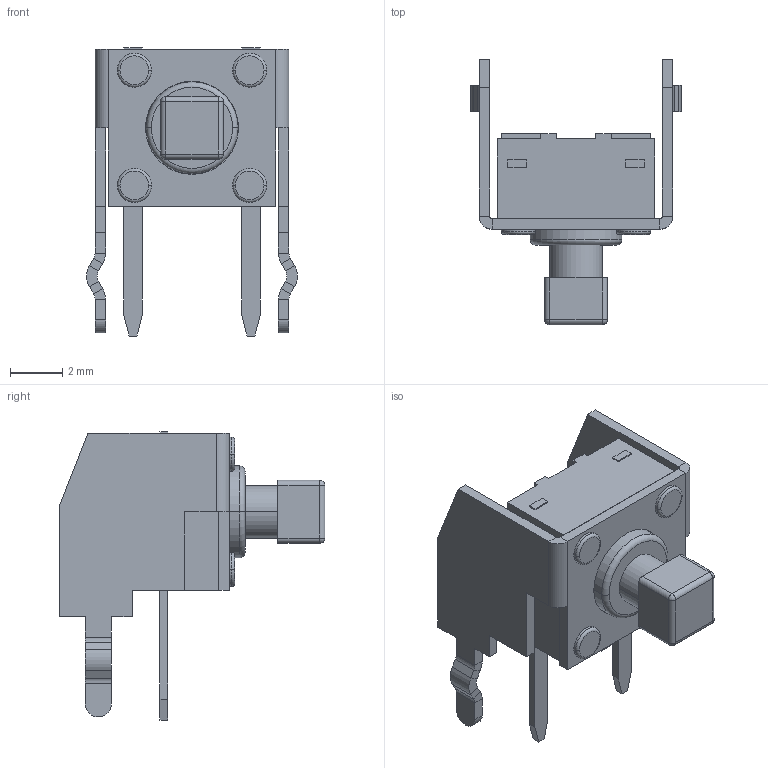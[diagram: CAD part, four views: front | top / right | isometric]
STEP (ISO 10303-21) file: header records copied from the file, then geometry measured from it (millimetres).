
FILE_DESCRIPTION((''),'2;1');
FILE_NAME('JQC6060G-C0731-101_ASM','2026-05-26T09:51:22',('Admin'),(''),'CREO PARAMETRIC BY PTC INC, 2019224','CREO PARAMETRIC BY PTC INC, 2019224','');
FILE_SCHEMA(('AUTOMOTIVE_DESIGN { 1 0 10303 214 1 1 1 1 }'));
Length unit declared in the file: millimetre
Products named in the file (3): JQC6060G-C0731-101_01; JQC6060G-C0731-101_02; JQC6060G-C0731-101_ASM
Assembly tree (2 placements, depth 2):
  JQC6060G-C0731-101_ASM
    JQC6060G-C0731-101_01
    JQC6060G-C0731-101_02
Bounding box: 8.05 x 10.15 x 11 mm (x, y, z)
Volume: 181.6 mm3; surface area: 475.2 mm2
Topology: 2 solids, 2 shells, 211 faces, 501 edges, 320 vertices
Faces by surface type: plane 141, cylinder 56, torus 10, sphere 4
Entity records: 7265 total; most frequent: DIRECTION 1077, CARTESIAN_POINT 1028, ORIENTED_EDGE 980, EDGE_CURVE 490, VECTOR 369, LINE 369, AXIS2_PLACEMENT_3D 354, VERTEX_POINT 298
